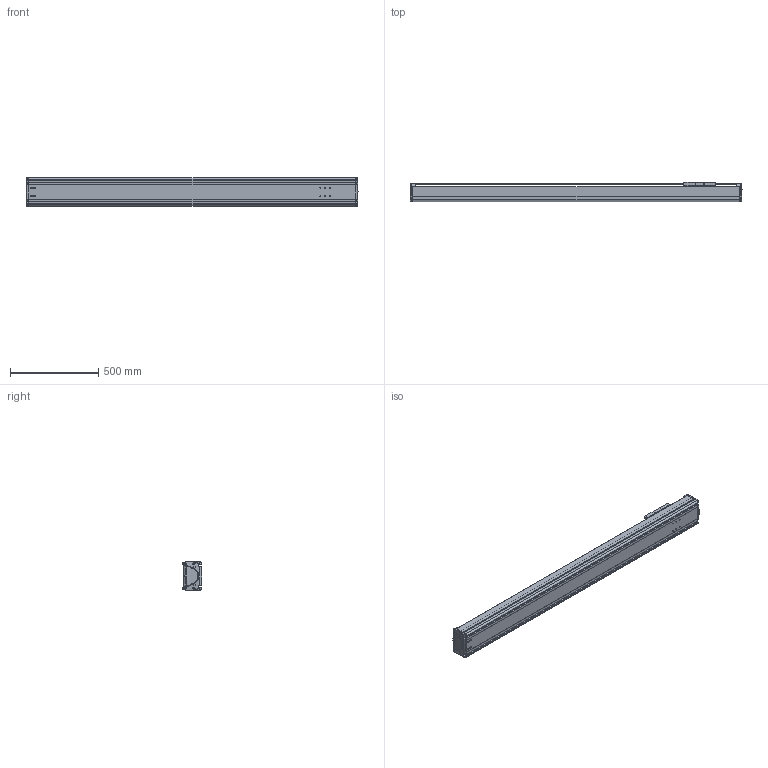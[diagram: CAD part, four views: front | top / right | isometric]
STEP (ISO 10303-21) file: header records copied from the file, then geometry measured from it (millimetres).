
FILE_DESCRIPTION((''),'2;1');
FILE_NAME('BE50G-ST-M_N-F0_IGS_PRT','2017-06-18T',(' '),(''),'PRO/ENGINEER BY PARAMETRIC TECHNOLOGY CORPORATION, 2015030','PRO/ENGINEER BY PARAMETRIC TECHNOLOGY CORPORATION, 2015030','');
FILE_SCHEMA(('CONFIG_CONTROL_DESIGN'));
Length unit declared in the file: millimetre
Products named in the file (1): BE50G-ST-M_N-F0_IGS_PRT
Bounding box: 1879.98 x 110 x 160 mm (x, y, z)
Volume: 7717189 mm3; surface area: 2809074.1 mm2
Topology: 3 solids, 112 shells, 1742 faces, 4670 edges, 3021 vertices
Faces by surface type: cylinder 814, plane 611, bspline 102, cone 88, torus 87, sphere 40
Entity records: 60545 total; most frequent: CARTESIAN_POINT 17528, ORIENTED_EDGE 8854, DIRECTION 8748, EDGE_CURVE 4642, AXIS2_PLACEMENT_3D 3298, VERTEX_POINT 3013, VECTOR 2152, LINE 2152
